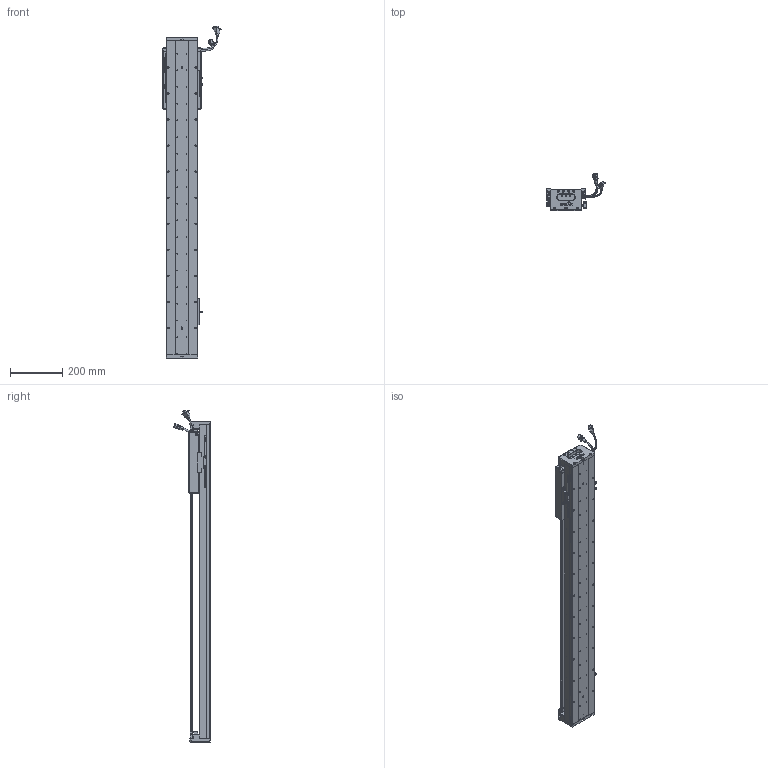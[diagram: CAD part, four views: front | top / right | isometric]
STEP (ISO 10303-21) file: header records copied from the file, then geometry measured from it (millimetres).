
FILE_DESCRIPTION (( 'STEP AP203' ), '1' );
FILE_NAME ('Z3-RY120D-1-L500-B-K.SLDASM_0900.step', '2021-05-17T05:46:41', ( '盈信电脑' ), ( '东莞市道滘镇水果街19号' ), 'SwSTEP 2.0', 'SolidWorks 2016', '' );
FILE_SCHEMA (( 'CONFIG_CONTROL_DESIGN' ));
Length unit declared in the file: millimetre
Products named in the file (37): 080黍杅芛假蚾釱21遴; PBU_SHEET; Z3-RY120铝滑块（21款）; 覜茼ん672; Z3-RY120-L500詩湍100mm遵_0900; Z-RY120D詩湍奻揤裔; HARNESS-Part-2; 140雄赽晤鎢ん堤盄; LABEL; SCREW-M1.6; SHIELDPLATE; SCALE; SCREW-M1.7; RY100FB-遵嫖萇覜茼え; 672嫖萇羲壽假蚾釱; 120-Z-臏賑輸盄裔(21遴); SCREW-M1.7-1; SCREW-M1.6-1; Z3-RY120D-1-L500-B-K.SLDASM_0900; Z-RY120D詩湍狟揤裔; HOLDER0; HARNESS-Part-1; COVER-Part-1; 140蚥薯蝶輸; SCREW-M1.6-2; SCALE-Part-2; SEAL-Part-1; Z3-RY120-500-倰第菁釱_0900; SCREW-M1.6-3; HARNESS; COVER; Z-120詩湍傷裔啣; SEAL; 榋妏寠巭燃_暯_M2_2; PSLH080_PSLF2; SCALE-Part-1; LABEL-Part-1
Assembly tree (43 placements, depth 4):
  Z3-RY120D-1-L500-B-K.SLDASM_0900
    Z3-RY120-500-倰第菁釱_0900
    覜茼ん672  x3
    672嫖萇羲壽假蚾釱  x2
    Z3-RY120铝滑块（21款）
    PSLH080_PSLF2
      SCALE
        SCALE-Part-1
        SCALE-Part-2
      HARNESS
        HARNESS-Part-1
        HARNESS-Part-2
      LABEL
        LABEL-Part-1
      COVER
        COVER-Part-1
      SEAL
        SEAL-Part-1
      榋妏寠巭燃_暯_M2_2
      SHIELDPLATE
      SCREW-M1.7
      SCREW-M1.7-1
      PBU_SHEET
      SCREW-M1.6
      SCREW-M1.6-1
      SCREW-M1.6-2
      SCREW-M1.6-3
      HOLDER0
    080黍杅芛假蚾釱21遴
    120-Z-臏賑輸盄裔(21遴)
    140雄赽晤鎢ん堤盄
    140蚥薯蝶輸  x2
    RY100FB-遵嫖萇覜茼え
    Z-120詩湍傷裔啣  x2
    Z-RY120D詩湍奻揤裔  x2
    Z-RY120D詩湍狟揤裔  x2
    Z3-RY120-L500詩湍100mm遵_0900
Bounding box: 222.87 x 140.94 x 1274 mm (x, y, z)
Volume: 3470098.5 mm3; surface area: 1163082 mm2
Topology: 38 solids, 38 shells, 2877 faces, 7809 edges, 4928 vertices
Faces by surface type: cylinder 1337, plane 1128, cone 290, torus 69, bspline 53
Entity records: 87286 total; most frequent: CARTESIAN_POINT 23543, ORIENTED_EDGE 12562, DIRECTION 12299, EDGE_CURVE 6281, AXIS2_PLACEMENT_3D 4510, VERTEX_POINT 4048, VECTOR 3279, LINE 3279
